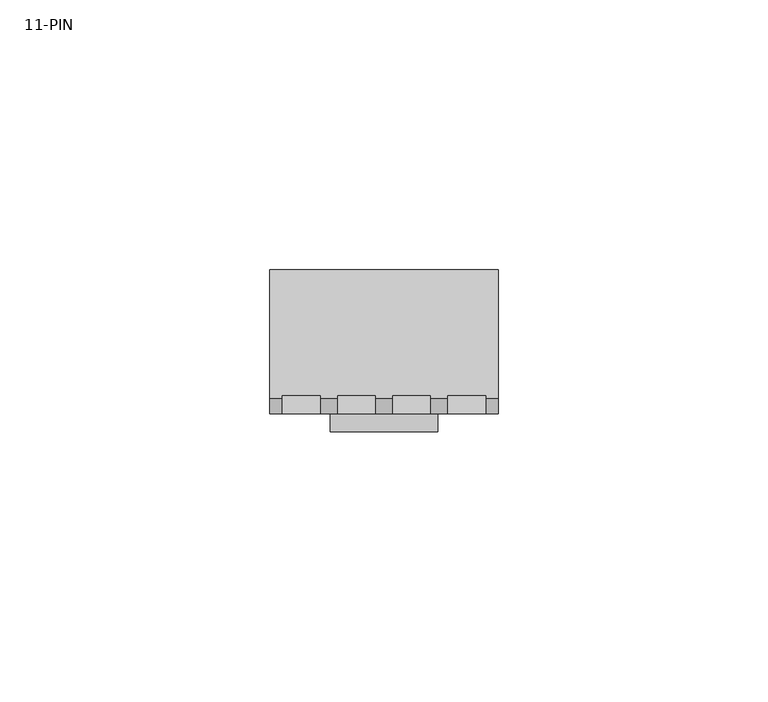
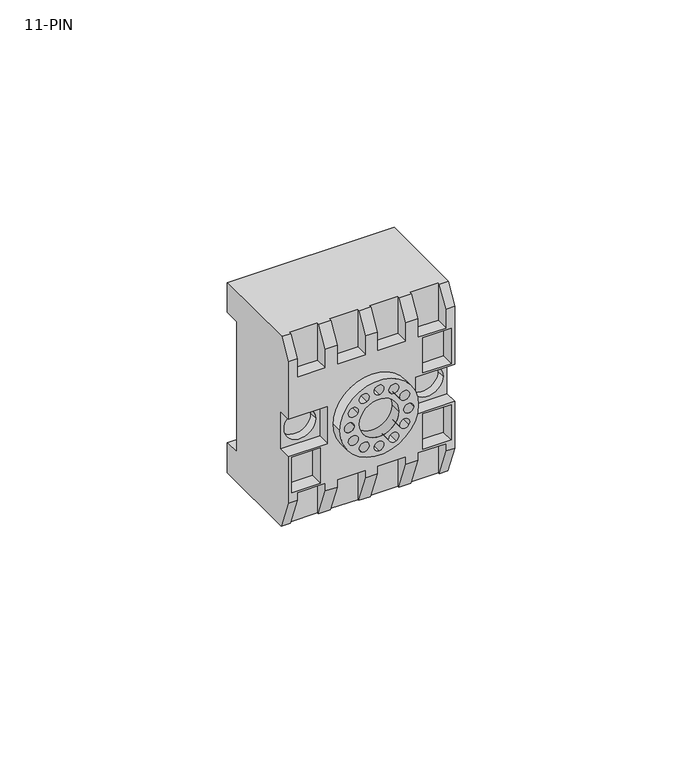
"""IFC4 building model written with IfcOpenShell, lengths in millimetres: proxy geometry, TDM_ЦОКОЛЬНЫЙ РАЗЪЕМ Р11Ц : 11-PIN."""

from ifc_helpers import new_model, si_unit, point, frame, frame_2d, origin, origin_2d, place, context, project, spatial, polyline, circle_curve, trimmed, segment, composite_curve, outline, extrude, source, transform, mapped, element, save
from ifc_brep_helpers import plane_surface, revolved_surface, advanced_brep


def proxy_11_pin_421f2a57(model_context):
    return source(origin(), model_context, "Body", "SolidModel", [
        advanced_brep(
        [(21.15, -13.8132487, 25.5), (21.15, -16.7, 20.5), (21.15, -16.7, 5.0), (21.15, -13.1989892, 5.0), (21.15, -13.1989892, -5.0), (21.15, -16.7, -5.0), (21.15, -16.7, -17.5), (21.15, -13.6290877, -25.5), (21.15, 10.0, -25.5), (21.15, 10.0, -17.5), (21.15, 6.0, -17.5), (21.15, 6.0, 17.5), (21.15, 10.0, 17.5), (21.15, 10.0, 25.5), (-21.15, -13.8132487, 25.5), (-21.15, 10.0, 25.5), (-21.15, 10.0, 17.5), (-21.15, 6.0, 17.5), (-21.15, 6.0, -17.5), (-21.15, 10.0, -17.5), (-21.15, 10.0, -25.5), (-21.15, -13.6290877, -25.5), (-21.15, -16.7, -17.5), (-21.15, -16.7, -5.0), (-21.15, -13.1989892, -5.0), (-21.15, -13.1989892, 5.0), (-21.15, -16.7, 5.0), (-21.15, -16.7, 20.5), (11.15, -16.7, -5.0), (11.15, -16.7, 5.0), (18.9, -16.7, 20.5), (18.9, -16.7, 15.5), (11.7, -16.7, 15.5), (11.7, -16.7, 20.5), (8.7, -16.7, 20.5), (8.7, -16.7, 15.5), (1.5, -16.7, 15.5), (1.5, -16.7, 20.5), (-1.5, -16.7, 20.5), (-1.5, -16.7, 15.5), (-8.7, -16.7, 15.5), (-8.7, -16.7, 20.5), (-11.7, -16.7, 20.5), (-11.7, -16.7, 15.5), (-18.9, -16.7, 15.5), (-18.9, -16.7, 20.5), (-11.15, -16.7, 5.0), (-11.15, -16.7, -5.0), (-18.9, -16.7, -17.5), (-18.9, -16.7, -15.5), (-11.7, -16.7, -15.5), (-11.7, -16.7, -17.5), (-8.7, -16.7, -17.5), (-8.7, -16.7, -15.5), (-1.5, -16.7, -15.5), (-1.5, -16.7, -17.5), (1.5, -16.7, -17.5), (1.5, -16.7, -15.5), (8.7, -16.7, -15.5), (8.7, -16.7, -17.5), (11.7, -16.7, -17.5), (11.7, -16.7, -15.5), (18.9, -16.7, -15.5), (18.9, -16.7, -17.5), (20.2531108, -16.7, -5.5), (20.2531108, -16.7, -15.0), (13.0531108, -16.7, -15.0), (13.0531108, -16.7, -5.5), (-13.0531108, -16.7, -15.0), (-20.2531108, -16.7, -15.0), (-20.2531108, -16.7, -5.5), (-13.0531108, -16.7, -5.5), (13.0531108, -16.7, 15.0), (20.2531108, -16.7, 15.0), (20.2531108, -16.7, 5.5), (13.0531108, -16.7, 5.5), (18.9, -13.6290877, -25.5), (18.9, -13.1989892, -25.5), (11.7, -13.1989892, -25.5), (11.7, -13.6290877, -25.5), (8.7, -13.6290877, -25.5), (8.7, -13.1989892, -25.5), (1.5, -13.1989892, -25.5), (1.5, -13.6290877, -25.5), (-1.5, -13.6290877, -25.5), (-1.5, -13.1989892, -25.5), (-8.7, -13.1989892, -25.5), (-8.7, -13.6290877, -25.5), (-11.7, -13.6290877, -25.5), (-11.7, -13.1989892, -25.5), (-18.9, -13.1989892, -25.5), (-18.9, -13.6290877, -25.5), (-18.9, -13.8132487, 25.5), (-18.9, -13.1989892, 25.5), (-11.7, -13.1989892, 25.5), (-11.7, -13.8132487, 25.5), (-8.7, -13.8132487, 25.5), (-8.7, -13.1989892, 25.5), (-1.5, -13.1989892, 25.5), (-1.5, -13.8132487, 25.5), (1.5, -13.8132487, 25.5), (1.5, -13.1989892, 25.5), (8.7, -13.1989892, 25.5), (8.7, -13.8132487, 25.5), (11.7, -13.8132487, 25.5), (11.7, -13.1989892, 25.5), (18.9, -13.1989892, 25.5), (18.9, -13.8132487, 25.5), (11.15, -13.1989892, 5.0), (11.15, -13.1989892, -5.0), (12.1875, -13.1989892, 0.0), (20.1875, -13.1989892, 0.0), (-11.15, -13.1989892, 5.0), (-11.15, -13.1989892, -5.0), (-12.1875, -13.1989892, 0.0), (-20.1875, -13.1989892, 0.0), (-8.7, -13.1989892, 15.5), (-1.5, -13.1989892, 15.5), (-18.9, -13.1989892, 15.5), (-11.7, -13.1989892, 15.5), (1.5, -13.1989892, 15.5), (8.7, -13.1989892, 15.5), (11.7, -13.1989892, 15.5), (18.9, -13.1989892, 15.5), (-1.5, -13.1989892, -15.5), (-8.7, -13.1989892, -15.5), (-11.7, -13.1989892, -15.5), (-18.9, -13.1989892, -15.5), (8.7, -13.1989892, -15.5), (1.5, -13.1989892, -15.5), (18.9, -13.1989892, -15.5), (11.7, -13.1989892, -15.5), (20.2531108, -13.1989892, -15.0), (20.2531108, -13.1989892, -5.5), (13.0531108, -13.1989892, -5.5), (13.0531108, -13.1989892, -15.0), (-20.2531108, -13.1989892, -15.0), (-13.0531108, -13.1989892, -15.0), (-13.0531108, -13.1989892, -5.5), (-20.2531108, -13.1989892, -5.5), (20.2531108, -13.1989892, 15.0), (13.0531108, -13.1989892, 15.0), (13.0531108, -13.1989892, 5.5), (20.2531108, -13.1989892, 5.5), (-20.1875, -10.9480722, 0.0), (-12.1875, -10.9480722, 0.0), (20.1875, -10.9480722, 0.0), (12.1875, -10.9480722, 0.0)],
        [
            (0, 1),
            (1, 2),
            (2, 3),
            (3, 4),
            (4, 5),
            (5, 6),
            (6, 7),
            (7, 8),
            (8, 9),
            (9, 10),
            (10, 11),
            (11, 12),
            (12, 13),
            (13, 0),
            (14, 15),
            (15, 16),
            (16, 17),
            (17, 18),
            (18, 19),
            (19, 20),
            (20, 21),
            (21, 22),
            (22, 23),
            (23, 24),
            (24, 25),
            (25, 26),
            (26, 27),
            (27, 14),
            (5, 28),
            (28, 29),
            (29, 2),
            (1, 30),
            (30, 31),
            (31, 32),
            (32, 33),
            (33, 34),
            (34, 35),
            (35, 36),
            (36, 37),
            (37, 38),
            (38, 39),
            (39, 40),
            (40, 41),
            (41, 42),
            (42, 43),
            (43, 44),
            (44, 45),
            (45, 27),
            (26, 46),
            (46, 47),
            (47, 23),
            (22, 48),
            (48, 49),
            (49, 50),
            (50, 51),
            (51, 52),
            (52, 53),
            (53, 54),
            (54, 55),
            (55, 56),
            (56, 57),
            (57, 58),
            (58, 59),
            (59, 60),
            (60, 61),
            (61, 62),
            (62, 63),
            (63, 6),
            (64, 65),
            (65, 66),
            (66, 67),
            (67, 64),
            (68, 69),
            (69, 70),
            (70, 71),
            (71, 68),
            (72, 73),
            (73, 74),
            (74, 75),
            (75, 72),
            (7, 76),
            (76, 77),
            (77, 78),
            (78, 79),
            (79, 80),
            (80, 81),
            (81, 82),
            (82, 83),
            (83, 84),
            (84, 85),
            (85, 86),
            (86, 87),
            (87, 88),
            (88, 89),
            (89, 90),
            (90, 91),
            (91, 21),
            (20, 8),
            (19, 9),
            (18, 10),
            (17, 11),
            (16, 12),
            (15, 13),
            (14, 92),
            (92, 93),
            (93, 94),
            (94, 95),
            (95, 96),
            (96, 97),
            (97, 98),
            (98, 99),
            (99, 100),
            (100, 101),
            (101, 102),
            (102, 103),
            (103, 104),
            (104, 105),
            (105, 106),
            (106, 107),
            (107, 0),
            (107, 30),
            (45, 92),
            (33, 104),
            (103, 34),
            (37, 100),
            (99, 38),
            (41, 96),
            (95, 42),
            (63, 76),
            (91, 48),
            (79, 60),
            (59, 80),
            (83, 56),
            (55, 84),
            (87, 52),
            (51, 88),
            (108, 109),
            (109, 4),
            (3, 108),
            (110, 111, circle_curve(frame((16.1875, -13.1989892, 0.0), z_axis=(0.0, 1.0, 0.0), x_axis=(-1.0, 0.0, 0.0)), 4.0)),
            (111, 110, circle_curve(frame((16.1875, -13.1989892, 0.0), z_axis=(0.0, 1.0, 0.0), x_axis=(-1.0, 0.0, 0.0)), 4.0)),
            (112, 25),
            (24, 113),
            (113, 112),
            (114, 115, circle_curve(frame((-16.1875, -13.1989892, 0.0), z_axis=(0.0, 1.0, 0.0), x_axis=(1.0, 0.0, 0.0)), 4.0)),
            (115, 114, circle_curve(frame((-16.1875, -13.1989892, 0.0), z_axis=(0.0, 1.0, 0.0), x_axis=(1.0, 0.0, 0.0)), 4.0)),
            (97, 116),
            (116, 117),
            (117, 98),
            (93, 118),
            (118, 119),
            (119, 94),
            (101, 120),
            (120, 121),
            (121, 102),
            (105, 122),
            (122, 123),
            (123, 106),
            (85, 124),
            (124, 125),
            (125, 86),
            (89, 126),
            (126, 127),
            (127, 90),
            (81, 128),
            (128, 129),
            (129, 82),
            (77, 130),
            (130, 131),
            (131, 78),
            (132, 133),
            (133, 134),
            (134, 135),
            (135, 132),
            (136, 137),
            (137, 138),
            (138, 139),
            (139, 136),
            (140, 141),
            (141, 142),
            (142, 143),
            (143, 140),
            (108, 29),
            (28, 109),
            (112, 46),
            (47, 113),
            (40, 116),
            (39, 117),
            (44, 118),
            (43, 119),
            (36, 120),
            (35, 121),
            (32, 122),
            (31, 123),
            (54, 124),
            (53, 125),
            (50, 126),
            (49, 127),
            (58, 128),
            (57, 129),
            (62, 130),
            (61, 131),
            (132, 65),
            (64, 133),
            (67, 134),
            (66, 135),
            (136, 69),
            (68, 137),
            (71, 138),
            (70, 139),
            (140, 73),
            (72, 141),
            (75, 142),
            (74, 143),
            (144, 145, circle_curve(frame((-16.1875, -10.9480722, 0.0), z_axis=(0.0, -1.0, 0.0), x_axis=(1.0, 0.0, 0.0)), 4.0)),
            (145, 144, circle_curve(frame((-16.1875, -10.9480722, 0.0), z_axis=(0.0, -1.0, 0.0), x_axis=(1.0, 0.0, 0.0)), 4.0)),
            (146, 147, circle_curve(frame((16.1875, -10.9480722, 0.0), z_axis=(0.0, -1.0, 0.0), x_axis=(-1.0, 0.0, 0.0)), 4.0)),
            (147, 146, circle_curve(frame((16.1875, -10.9480722, 0.0), z_axis=(0.0, -1.0, 0.0), x_axis=(-1.0, 0.0, 0.0)), 4.0)),
            (144, 115),
            (114, 145),
            (146, 111),
            (110, 147),
        ],
        [
            plane_surface(frame((21.15, -16.7, 20.5), z_axis=(1.0000000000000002, 0.0, 0.0), x_axis=(0.0, -0.5000000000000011, -0.8660254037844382))),
            plane_surface(frame((-21.15, -16.7, 20.5), z_axis=(-1.0000000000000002, 0.0, 0.0), x_axis=(0.0, 0.5000000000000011, 0.8660254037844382))),
            plane_surface(frame((21.15, -16.7, 20.5), z_axis=(0.0, -1.0, 0.0), x_axis=(-1.0, 0.0, 0.0))),
            plane_surface(frame((21.15, -13.6290877, -25.5), z_axis=(0.0, 0.0, -1.0), x_axis=(-1.0, 0.0, 0.0))),
            plane_surface(frame((21.15, 10.0, -25.5), z_axis=(0.0, 1.0, 0.0), x_axis=(-1.0, 0.0, 0.0))),
            plane_surface(frame((21.15, 10.0, -17.5), z_axis=(0.0, 0.0, 1.0), x_axis=(-1.0, 0.0, 0.0))),
            plane_surface(frame((21.15, 6.0, -17.5), z_axis=(0.0, 1.0, 0.0), x_axis=(-1.0, 0.0, 0.0))),
            plane_surface(frame((21.15, 6.0, 17.5), z_axis=(0.0, 0.0, -1.0), x_axis=(-1.0, 0.0, 0.0))),
            plane_surface(frame((21.15, 10.0, 17.5), z_axis=(0.0, 1.0, 0.0), x_axis=(-1.0, 0.0, 0.0))),
            plane_surface(frame((21.15, 10.0, 25.5), z_axis=(0.0, 0.0, 1.0), x_axis=(-1.0, 0.0, 0.0))),
            plane_surface(frame((21.15, -13.8132487, 25.5), z_axis=(0.0, -0.8660254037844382, 0.5000000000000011), x_axis=(-1.0, 0.0, 0.0))),
            plane_surface(frame((21.15, -16.7, -17.5), z_axis=(0.0, -0.9335804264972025, -0.35836794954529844), x_axis=(-1.0, 0.0, 0.0))),
            plane_surface(frame((11.15, -13.1989892, 5.742795), z_axis=(0.0, -1.0, 0.0), x_axis=(0.0, 0.0, 1.0))),
            plane_surface(frame((11.15, -22.1900296, 5.0), z_axis=(1.0, 0.0, 0.0), x_axis=(0.0, 1.0, 0.0))),
            plane_surface(frame((11.15, -22.1900296, -5.0), z_axis=(0.0, 0.0, 1.0), x_axis=(0.0, 1.0, 0.0))),
            plane_surface(frame((21.15, -22.1900296, 5.0), z_axis=(0.0, 0.0, -1.0), x_axis=(0.0, 1.0, 0.0))),
            plane_surface(frame((-11.15, -22.1900296, 5.0), z_axis=(0.0, 0.0, -1.0), x_axis=(0.0, 1.0, 0.0))),
            plane_surface(frame((-21.15, -22.1900296, -5.0), z_axis=(0.0, 0.0, 1.0), x_axis=(0.0, 1.0, 0.0))),
            plane_surface(frame((-11.15, -22.1900296, -5.0), z_axis=(-1.0, 0.0, 0.0), x_axis=(0.0, 1.0, 0.0))),
            plane_surface(frame((-8.7, -22.1900296, 25.5), z_axis=(1.0, 0.0, 0.0), x_axis=(0.0, 1.0, 0.0))),
            plane_surface(frame((-8.7, -22.1900296, 15.5), z_axis=(0.0, 0.0, 1.0), x_axis=(0.0, 1.0, 0.0))),
            plane_surface(frame((-1.5, -22.1900296, 15.5), z_axis=(-1.0, 0.0, 0.0), x_axis=(0.0, 1.0, 0.0))),
            plane_surface(frame((-18.9, -22.1900296, 25.5), z_axis=(1.0, 0.0, 0.0), x_axis=(0.0, 1.0, 0.0))),
            plane_surface(frame((-18.9, -22.1900296, 15.5), z_axis=(0.0, 0.0, 1.0), x_axis=(0.0, 1.0, 0.0))),
            plane_surface(frame((-11.7, -22.1900296, 15.5), z_axis=(-1.0, 0.0, 0.0), x_axis=(0.0, 1.0, 0.0))),
            plane_surface(frame((1.5, -22.1900296, 25.5), z_axis=(1.0, 0.0, 0.0), x_axis=(0.0, 1.0, 0.0))),
            plane_surface(frame((1.5, -22.1900296, 15.5), z_axis=(0.0, 0.0, 1.0), x_axis=(0.0, 1.0, 0.0))),
            plane_surface(frame((8.7, -22.1900296, 15.5), z_axis=(-1.0, 0.0, 0.0), x_axis=(0.0, 1.0, 0.0))),
            plane_surface(frame((11.7, -22.1900296, 25.5), z_axis=(1.0, 0.0, 0.0), x_axis=(0.0, 1.0, 0.0))),
            plane_surface(frame((11.7, -22.1900296, 15.5), z_axis=(0.0, 0.0, 1.0), x_axis=(0.0, 1.0, 0.0))),
            plane_surface(frame((18.9, -22.1900296, 15.5), z_axis=(-1.0, 0.0, 0.0), x_axis=(0.0, 1.0, 0.0))),
            plane_surface(frame((-1.5, -22.1900296, -25.5), z_axis=(-1.0, 0.0, 0.0), x_axis=(0.0, 1.0, 0.0))),
            plane_surface(frame((-1.5, -22.1900296, -15.5), z_axis=(0.0, 0.0, -1.0), x_axis=(0.0, 1.0, 0.0))),
            plane_surface(frame((-8.7, -22.1900296, -15.5), z_axis=(1.0, 0.0, 0.0), x_axis=(0.0, 1.0, 0.0))),
            plane_surface(frame((-11.7, -22.1900296, -25.5), z_axis=(-1.0, 0.0, 0.0), x_axis=(0.0, 1.0, 0.0))),
            plane_surface(frame((-11.7, -22.1900296, -15.5), z_axis=(0.0, 0.0, -1.0), x_axis=(0.0, 1.0, 0.0))),
            plane_surface(frame((-18.9, -22.1900296, -15.5), z_axis=(1.0, 0.0, 0.0), x_axis=(0.0, 1.0, 0.0))),
            plane_surface(frame((8.7, -22.1900296, -25.5), z_axis=(-1.0, 0.0, 0.0), x_axis=(0.0, 1.0, 0.0))),
            plane_surface(frame((8.7, -22.1900296, -15.5), z_axis=(0.0, 0.0, -1.0), x_axis=(0.0, 1.0, 0.0))),
            plane_surface(frame((1.5, -22.1900296, -15.5), z_axis=(1.0, 0.0, 0.0), x_axis=(0.0, 1.0, 0.0))),
            plane_surface(frame((18.9, -22.1900296, -25.5), z_axis=(-1.0, 0.0, 0.0), x_axis=(0.0, 1.0, 0.0))),
            plane_surface(frame((18.9, -22.1900296, -15.5), z_axis=(0.0, 0.0, -1.0), x_axis=(0.0, 1.0, 0.0))),
            plane_surface(frame((11.7, -22.1900296, -15.5), z_axis=(1.0, 0.0, 0.0), x_axis=(0.0, 1.0, 0.0))),
            plane_surface(frame((20.2531108, -22.1900296, -15.0), z_axis=(-1.0, 0.0, 0.0), x_axis=(0.0, 1.0, 0.0))),
            plane_surface(frame((20.2531108, -22.1900296, -5.5), z_axis=(0.0, 0.0, -1.0), x_axis=(0.0, 1.0, 0.0))),
            plane_surface(frame((13.0531108, -22.1900296, -5.5), z_axis=(1.0, 0.0, 0.0), x_axis=(0.0, 1.0, 0.0))),
            plane_surface(frame((13.0531108, -22.1900296, -15.0), z_axis=(0.0, 0.0, 1.0), x_axis=(0.0, 1.0, 0.0))),
            plane_surface(frame((-20.2531108, -22.1900296, -15.0), z_axis=(0.0, 0.0, 1.0), x_axis=(0.0, 1.0, 0.0))),
            plane_surface(frame((-13.0531108, -22.1900296, -15.0), z_axis=(-1.0, 0.0, 0.0), x_axis=(0.0, 1.0, 0.0))),
            plane_surface(frame((-13.0531108, -22.1900296, -5.5), z_axis=(0.0, 0.0, -1.0), x_axis=(0.0, 1.0, 0.0))),
            plane_surface(frame((-20.2531108, -22.1900296, -5.5), z_axis=(1.0, 0.0, 0.0), x_axis=(0.0, 1.0, 0.0))),
            plane_surface(frame((20.2531108, -22.1900296, 15.0), z_axis=(0.0, 0.0, -1.0), x_axis=(0.0, 1.0, 0.0))),
            plane_surface(frame((13.0531108, -22.1900296, 15.0), z_axis=(1.0, 0.0, 0.0), x_axis=(0.0, 1.0, 0.0))),
            plane_surface(frame((13.0531108, -22.1900296, 5.5), z_axis=(0.0, 0.0, 1.0), x_axis=(0.0, 1.0, 0.0))),
            plane_surface(frame((20.2531108, -22.1900296, 5.5), z_axis=(-1.0, 0.0, 0.0), x_axis=(0.0, 1.0, 0.0))),
            plane_surface(frame((-12.1875, -10.9480722, 0.0), z_axis=(0.0, -1.0, 0.0), x_axis=(0.0, 0.0, -1.0))),
            revolved_surface(polyline([(-12.1875, -13.1989892, 0.0), (-12.1875, -10.9480722, 0.0)]), (-16.1875, -10.9480722, 0.0), (0.0, -1.0, 0.0)),
            revolved_surface(polyline([(12.1875, -13.1989892, 0.0), (12.1875, -10.9480722, 0.0)]), (16.1875, 0.0, 0.0), (0.0, -1.0, 0.0)),
        ],
        [
            (0, [[1, 2, 3, 4, 5, 6, 7, 8, 9, 10, 11, 12, 13, 14]]),
            (1, [[15, 16, 17, 18, 19, 20, 21, 22, 23, 24, 25, 26, 27, 28]]),
            (2, [[-6, 29, 30, 31, -2, 32, 33, 34, 35, 36, 37, 38, 39, 40, 41, 42, 43, 44, 45, 46, 47, 48, -27, 49, 50, 51, -23, 52, 53, 54, 55, 56, 57, 58, 59, 60, 61, 62, 63, 64, 65, 66, 67, 68], [69, 70, 71, 72], [73, 74, 75, 76], [77, 78, 79, 80]]),
            (3, [[-8, 81, 82, 83, 84, 85, 86, 87, 88, 89, 90, 91, 92, 93, 94, 95, 96, 97, -21, 98]]),
            (4, [[-9, -98, -20, 99]]),
            (5, [[-10, -99, -19, 100]]),
            (6, [[-11, -100, -18, 101]]),
            (7, [[-12, -101, -17, 102]]),
            (8, [[-13, -102, -16, 103]]),
            (9, [[-14, -103, -15, 104, 105, 106, 107, 108, 109, 110, 111, 112, 113, 114, 115, 116, 117, 118, 119, 120]]),
            (10, [[-1, -120, 121, -32]]),
            (10, [[-28, -48, 122, -104]]),
            (10, [[-36, 123, -116, 124]]),
            (10, [[-40, 125, -112, 126]]),
            (10, [[-44, 127, -108, 128]]),
            (11, [[-7, -68, 129, -81]]),
            (11, [[-22, -97, 130, -52]]),
            (11, [[-85, 131, -64, 132]]),
            (11, [[-89, 133, -60, 134]]),
            (11, [[-93, 135, -56, 136]]),
            (12, [[137, 138, -4, 139], [140, 141]]),
            (12, [[142, -25, 143, 144], [145, 146]]),
            (12, [[147, 148, 149, -110]]),
            (12, [[150, 151, 152, -106]]),
            (12, [[153, 154, 155, -114]]),
            (12, [[156, 157, 158, -118]]),
            (12, [[159, 160, 161, -91]]),
            (12, [[162, 163, 164, -95]]),
            (12, [[165, 166, 167, -87]]),
            (12, [[168, 169, 170, -83]]),
            (12, [[171, 172, 173, 174]]),
            (12, [[175, 176, 177, 178]]),
            (12, [[179, 180, 181, 182]]),
            (13, [[-137, 183, -30, 184]]),
            (14, [[-138, -184, -29, -5]]),
            (15, [[-139, -3, -31, -183]]),
            (16, [[-142, 185, -49, -26]]),
            (17, [[-143, -24, -51, 186]]),
            (18, [[-144, -186, -50, -185]]),
            (19, [[-147, -109, -127, -43, 187]]),
            (20, [[-148, -187, -42, 188]]),
            (21, [[-149, -188, -41, -126, -111]]),
            (22, [[-150, -105, -122, -47, 189]]),
            (23, [[-151, -189, -46, 190]]),
            (24, [[-152, -190, -45, -128, -107]]),
            (25, [[-153, -113, -125, -39, 191]]),
            (26, [[-154, -191, -38, 192]]),
            (27, [[-155, -192, -37, -124, -115]]),
            (28, [[-156, -117, -123, -35, 193]]),
            (29, [[-157, -193, -34, 194]]),
            (30, [[-158, -194, -33, -121, -119]]),
            (31, [[-159, -90, -134, -59, 195]]),
            (32, [[-160, -195, -58, 196]]),
            (33, [[-161, -196, -57, -135, -92]]),
            (34, [[-162, -94, -136, -55, 197]]),
            (35, [[-163, -197, -54, 198]]),
            (36, [[-164, -198, -53, -130, -96]]),
            (37, [[-165, -86, -132, -63, 199]]),
            (38, [[-166, -199, -62, 200]]),
            (39, [[-167, -200, -61, -133, -88]]),
            (40, [[-168, -82, -129, -67, 201]]),
            (41, [[-169, -201, -66, 202]]),
            (42, [[-170, -202, -65, -131, -84]]),
            (43, [[-171, 203, -69, 204]]),
            (44, [[-172, -204, -72, 205]]),
            (45, [[-173, -205, -71, 206]]),
            (46, [[-174, -206, -70, -203]]),
            (47, [[-175, 207, -73, 208]]),
            (48, [[-176, -208, -76, 209]]),
            (49, [[-177, -209, -75, 210]]),
            (50, [[-178, -210, -74, -207]]),
            (51, [[-179, 211, -77, 212]]),
            (52, [[-180, -212, -80, 213]]),
            (53, [[-181, -213, -79, 214]]),
            (54, [[-182, -214, -78, -211]]),
            (55, [[215, 216]]),
            (55, [[217, 218]]),
            (56, [[-215, 219, -145, 220]]),
            (56, [[-216, -220, -146, -219]]),
            (57, [[-217, 221, -140, 222]]),
            (57, [[-218, -222, -141, -221]]),
        ],
    ),
        extrude(outline(composite_curve([segment(trimmed(circle_curve(frame_2d((7.3252662, 0.0)), 2.3252662), [point((7.3252662, -2.3252662))], [point((7.3252662, 2.3252662))], False, "CARTESIAN"), True, "CONTINUOUS"), segment(trimmed(circle_curve(frame_2d((7.3252662, 0.0)), 2.3252662), [point((7.3252662, 2.3252662))], [point((7.3252662, -2.3252662))], False, "CARTESIAN"), True, "CONTINUOUS")], self_intersect=False)), frame((0.0, 6.0, 0.0), z_axis=(0.0, 1.0, 0.0), x_axis=(0.0, 0.0, 1.0)), (0.0, 0.0, 1.0), 4.0),
        extrude(outline(composite_curve([segment(trimmed(circle_curve(frame_2d((-7.3252662, 0.0)), 2.3252662), [point((-7.3252662, -2.3252662))], [point((-7.3252662, 2.3252662))], False, "CARTESIAN"), True, "CONTINUOUS"), segment(trimmed(circle_curve(frame_2d((-7.3252662, 0.0)), 2.3252662), [point((-7.3252662, 2.3252662))], [point((-7.3252662, -2.3252662))], False, "CARTESIAN"), True, "CONTINUOUS")], self_intersect=False)), frame((0.0, 6.0, 0.0), z_axis=(0.0, 1.0, 0.0), x_axis=(0.0, 0.0, 1.0)), (0.0, 0.0, 1.0), 4.0),
        extrude(outline(composite_curve([segment(trimmed(circle_curve(origin_2d(), 10.0), [point((0.0, -10.0))], [point((0.0, 10.0))], False, "CARTESIAN"), True, "CONTINUOUS"), segment(trimmed(circle_curve(origin_2d(), 10.0), [point((0.0, 10.0))], [point((0.0, -10.0))], False, "CARTESIAN"), True, "CONTINUOUS")], self_intersect=False), holes=[composite_curve([segment(trimmed(circle_curve(frame_2d((0.0, 7.5275386)), 1.25), [point((0.0, 6.2775386))], [point((0.0, 8.7775386))], True, "CARTESIAN"), True, "CONTINUOUS"), segment(trimmed(circle_curve(frame_2d((0.0, 7.5275386)), 1.25), [point((0.0, 8.7775386))], [point((0.0, 6.2775386))], True, "CARTESIAN"), True, "CONTINUOUS")], self_intersect=False), composite_curve([segment(trimmed(circle_curve(origin_2d(), 5.0), [point((0.0, -5.0))], [point((0.0, 5.0))], True, "CARTESIAN"), True, "CONTINUOUS"), segment(trimmed(circle_curve(origin_2d(), 5.0), [point((0.0, 5.0))], [point((0.0, -5.0))], True, "CARTESIAN"), True, "CONTINUOUS")], self_intersect=False), composite_curve([segment(trimmed(circle_curve(frame_2d((3.7637693, 6.5190397)), 1.25), [point((3.1387693, 5.4365079))], [point((4.3887693, 7.6015714))], True, "CARTESIAN"), True, "CONTINUOUS"), segment(trimmed(circle_curve(frame_2d((3.7637693, 6.5190397)), 1.25), [point((4.3887693, 7.6015714))], [point((3.1387693, 5.4365079))], True, "CARTESIAN"), True, "CONTINUOUS")], self_intersect=False), composite_curve([segment(trimmed(circle_curve(frame_2d((6.5190397, 3.7637693)), 1.25), [point((5.4365079, 3.1387693))], [point((7.6015714, 4.3887693))], True, "CARTESIAN"), True, "CONTINUOUS"), segment(trimmed(circle_curve(frame_2d((6.5190397, 3.7637693)), 1.25), [point((7.6015714, 4.3887693))], [point((5.4365079, 3.1387693))], True, "CARTESIAN"), True, "CONTINUOUS")], self_intersect=False), composite_curve([segment(trimmed(circle_curve(frame_2d((7.5275386, 0.0)), 1.25), [point((6.2775386, 0.0))], [point((8.7775386, 0.0))], True, "CARTESIAN"), True, "CONTINUOUS"), segment(trimmed(circle_curve(frame_2d((7.5275386, 0.0)), 1.25), [point((8.7775386, 0.0))], [point((6.2775386, 0.0))], True, "CARTESIAN"), True, "CONTINUOUS")], self_intersect=False), composite_curve([segment(trimmed(circle_curve(frame_2d((-3.7637693, 6.5190397)), 1.25), [point((-3.1387693, 5.4365079))], [point((-4.3887693, 7.6015714))], True, "CARTESIAN"), True, "CONTINUOUS"), segment(trimmed(circle_curve(frame_2d((-3.7637693, 6.5190397)), 1.25), [point((-4.3887693, 7.6015714))], [point((-3.1387693, 5.4365079))], True, "CARTESIAN"), True, "CONTINUOUS")], self_intersect=False), composite_curve([segment(trimmed(circle_curve(frame_2d((-6.5190397, 3.7637693)), 1.25), [point((-5.4365079, 3.1387693))], [point((-7.6015714, 4.3887693))], True, "CARTESIAN"), True, "CONTINUOUS"), segment(trimmed(circle_curve(frame_2d((-6.5190397, 3.7637693)), 1.25), [point((-7.6015714, 4.3887693))], [point((-5.4365079, 3.1387693))], True, "CARTESIAN"), True, "CONTINUOUS")], self_intersect=False), composite_curve([segment(trimmed(circle_curve(frame_2d((-7.5275386, 0.0)), 1.25), [point((-6.2775386, 0.0))], [point((-8.7775386, 0.0))], True, "CARTESIAN"), True, "CONTINUOUS"), segment(trimmed(circle_curve(frame_2d((-7.5275386, 0.0)), 1.25), [point((-8.7775386, 0.0))], [point((-6.2775386, 0.0))], True, "CARTESIAN"), True, "CONTINUOUS")], self_intersect=False), composite_curve([segment(trimmed(circle_curve(frame_2d((0.0, -7.5275386)), 1.25), [point((0.0, -6.2775386))], [point((0.0, -8.7775386))], True, "CARTESIAN"), True, "CONTINUOUS"), segment(trimmed(circle_curve(frame_2d((0.0, -7.5275386)), 1.25), [point((0.0, -8.7775386))], [point((0.0, -6.2775386))], True, "CARTESIAN"), True, "CONTINUOUS")], self_intersect=False), composite_curve([segment(trimmed(circle_curve(frame_2d((3.7637693, -6.5190397)), 1.25), [point((3.1387693, -5.4365079))], [point((4.3887693, -7.6015714))], True, "CARTESIAN"), True, "CONTINUOUS"), segment(trimmed(circle_curve(frame_2d((3.7637693, -6.5190397)), 1.25), [point((4.3887693, -7.6015714))], [point((3.1387693, -5.4365079))], True, "CARTESIAN"), True, "CONTINUOUS")], self_intersect=False), composite_curve([segment(trimmed(circle_curve(frame_2d((6.5190397, -3.7637693)), 1.25), [point((5.4365079, -3.1387693))], [point((7.6015714, -4.3887693))], True, "CARTESIAN"), True, "CONTINUOUS"), segment(trimmed(circle_curve(frame_2d((6.5190397, -3.7637693)), 1.25), [point((7.6015714, -4.3887693))], [point((5.4365079, -3.1387693))], True, "CARTESIAN"), True, "CONTINUOUS")], self_intersect=False), composite_curve([segment(trimmed(circle_curve(frame_2d((-3.7637693, -6.5190397)), 1.25), [point((-3.1387693, -5.4365079))], [point((-4.3887693, -7.6015714))], True, "CARTESIAN"), True, "CONTINUOUS"), segment(trimmed(circle_curve(frame_2d((-3.7637693, -6.5190397)), 1.25), [point((-4.3887693, -7.6015714))], [point((-3.1387693, -5.4365079))], True, "CARTESIAN"), True, "CONTINUOUS")], self_intersect=False), composite_curve([segment(trimmed(circle_curve(frame_2d((-6.5190397, -3.7637693)), 1.25), [point((-5.4365079, -3.1387693))], [point((-7.6015714, -4.3887693))], True, "CARTESIAN"), True, "CONTINUOUS"), segment(trimmed(circle_curve(frame_2d((-6.5190397, -3.7637693)), 1.25), [point((-7.6015714, -4.3887693))], [point((-5.4365079, -3.1387693))], True, "CARTESIAN"), True, "CONTINUOUS")], self_intersect=False)]), frame((0.0, -20.0, 0.0), z_axis=(0.0, 1.0, 0.0), x_axis=(0.0, 0.0, 1.0)), (0.0, 0.0, 1.0), 3.3),
    ])


if __name__ == "__main__":
    model = new_model("IFC4")
    model_context = context("Model", 3, world=origin())
    ifc_project = project(units=[si_unit("LENGTHUNIT", "METRE", prefix="MILLI")], contexts=[model_context])
    site = spatial("IfcSite", under=ifc_project)
    building = spatial("IfcBuilding", under=site)
    placement = place(None, origin())
    proxy_11_pin_shape = proxy_11_pin_421f2a57(model_context)
    element("IfcBuildingElementProxy", 1, Name="TDM_ЦОКОЛЬНЫЙ РАЗЪЕМ Р11Ц : 11-PIN", ObjectType="TDM_ЦОКОЛЬНЫЙ РАЗЪЕМ Р11Ц : 11-PIN", at=placement, inside=building, context=model_context, shape_type="MappedRepresentation", body=[
        mapped(proxy_11_pin_shape, transform((0.0, 0.0, 0.0), x_axis=(1.0, 0.0, 0.0), y_axis=(0.0, 1.0, 0.0), z_axis=(0.0, 0.0, 1.0))),
    ])
    save(model, "model.ifc")
